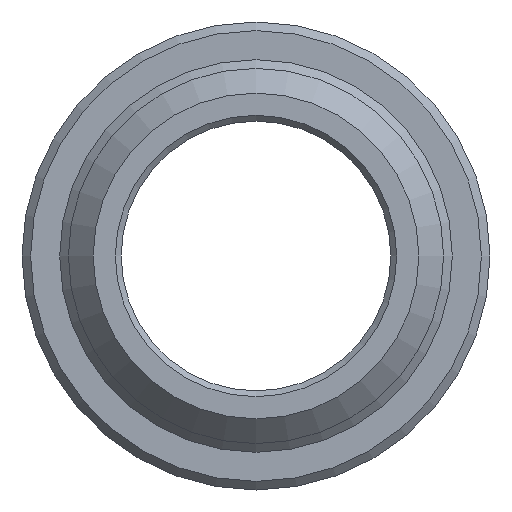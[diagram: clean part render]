
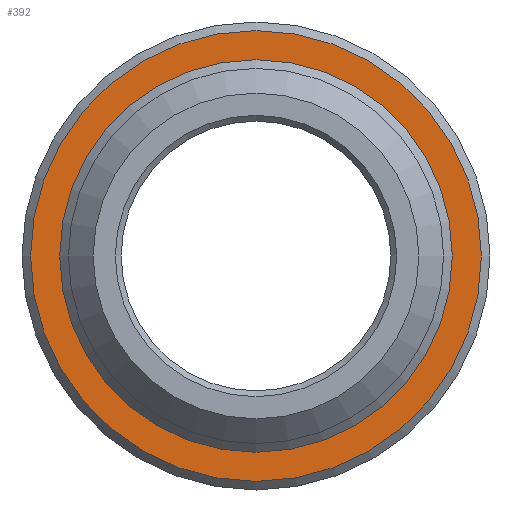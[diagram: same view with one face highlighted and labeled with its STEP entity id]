
A CAD part, front view. The second image highlights one B-rep face of the part: STEP entity #392.
In plain terms, the highlighted planar face has unit normal (0, -1, 0).
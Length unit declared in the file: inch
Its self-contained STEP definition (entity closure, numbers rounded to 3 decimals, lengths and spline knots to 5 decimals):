
#33=FACE_BOUND('',#86,.T.);
#44=PLANE('',#443);
#60=FACE_OUTER_BOUND('',#85,.T.);
#85=EDGE_LOOP('',(#316));
#86=EDGE_LOOP('',(#317));
#158=CIRCLE('',#442,0.34053);
#159=CIRCLE('',#444,0.391);
#195=VERTEX_POINT('',#678);
#196=VERTEX_POINT('',#682);
#243=EDGE_CURVE('',#195,#195,#158,.T.);
#244=EDGE_CURVE('',#196,#196,#159,.T.);
#316=ORIENTED_EDGE('',*,*,#244,.F.);
#317=ORIENTED_EDGE('',*,*,#243,.F.);
#392=ADVANCED_FACE('',(#60,#33),#44,.T.);
#442=AXIS2_PLACEMENT_3D('',#680,#536,#537);
#443=AXIS2_PLACEMENT_3D('',#681,#538,#539);
#444=AXIS2_PLACEMENT_3D('',#683,#540,#541);
#536=DIRECTION('center_axis',(0.,-1.,0.));
#537=DIRECTION('ref_axis',(0.,0.,-1.));
#538=DIRECTION('center_axis',(0.,-1.,0.));
#539=DIRECTION('ref_axis',(0.,0.,-1.));
#540=DIRECTION('center_axis',(0.,1.,0.));
#541=DIRECTION('ref_axis',(0.,0.,1.));
#678=CARTESIAN_POINT('',(0.,2.75,0.34053));
#680=CARTESIAN_POINT('Origin',(0.,2.75,0.));
#681=CARTESIAN_POINT('Origin',(0.,2.75,-0.3375));
#682=CARTESIAN_POINT('',(0.,2.75,-0.391));
#683=CARTESIAN_POINT('Origin',(0.,2.75,0.));
